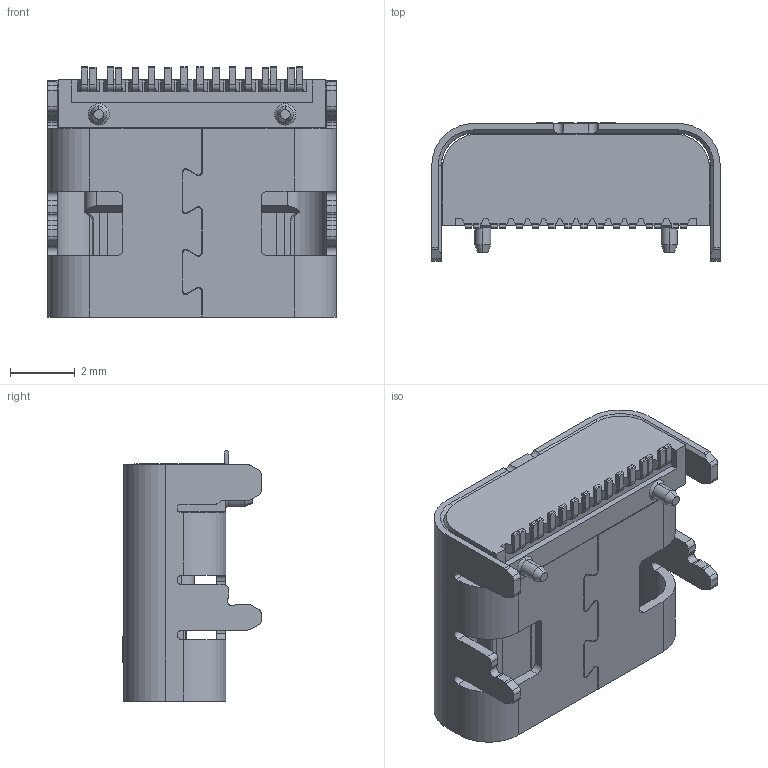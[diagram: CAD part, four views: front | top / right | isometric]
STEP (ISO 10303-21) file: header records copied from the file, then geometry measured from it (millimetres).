
FILE_DESCRIPTION (( 'STEP AP214' ), '1' );
FILE_NAME ('16P____7.35____1-4.STEP', '2026-05-22T00:43:38', ( '' ), ( '' ), 'SwSTEP 2.0', 'SolidWorks 2024', '' );
FILE_SCHEMA (( 'AUTOMOTIVE_DESIGN' ));
Length unit declared in the file: millimetre
Products named in the file (1): 16P____7.35____1-4
Bounding box: 8.94 x 4.29 x 7.75 mm (x, y, z)
Volume: 116 mm3; surface area: 483.5 mm2
Topology: 1 solids, 1 shells, 855 faces, 2441 edges, 1595 vertices
Faces by surface type: plane 565, cylinder 234, bspline 38, cone 18
Entity records: 29344 total; most frequent: CARTESIAN_POINT 7121, ORIENTED_EDGE 4878, DIRECTION 4367, EDGE_CURVE 2439, VECTOR 1829, LINE 1829, VERTEX_POINT 1595, AXIS2_PLACEMENT_3D 1269
